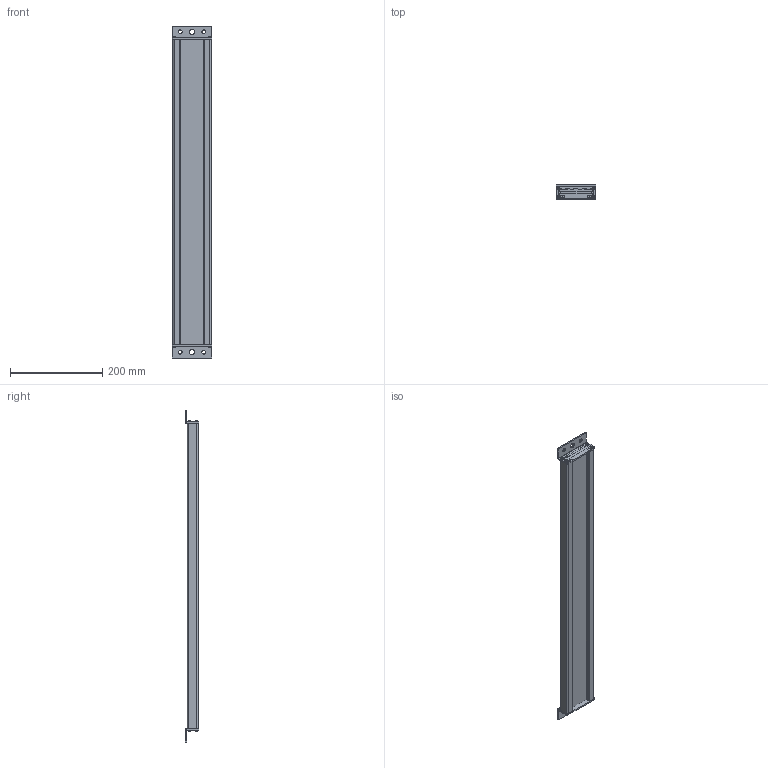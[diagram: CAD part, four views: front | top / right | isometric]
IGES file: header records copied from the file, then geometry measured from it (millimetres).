
Bounding box: 86.42 x 29.97 x 719.79 mm (x, y, z)
Surface area: 451952 mm2 (no closed solid volume)
Topology: 0 solids, 0 shells, 474 faces, 2580 edges, 2632 vertices
Faces by surface type: bspline 474
